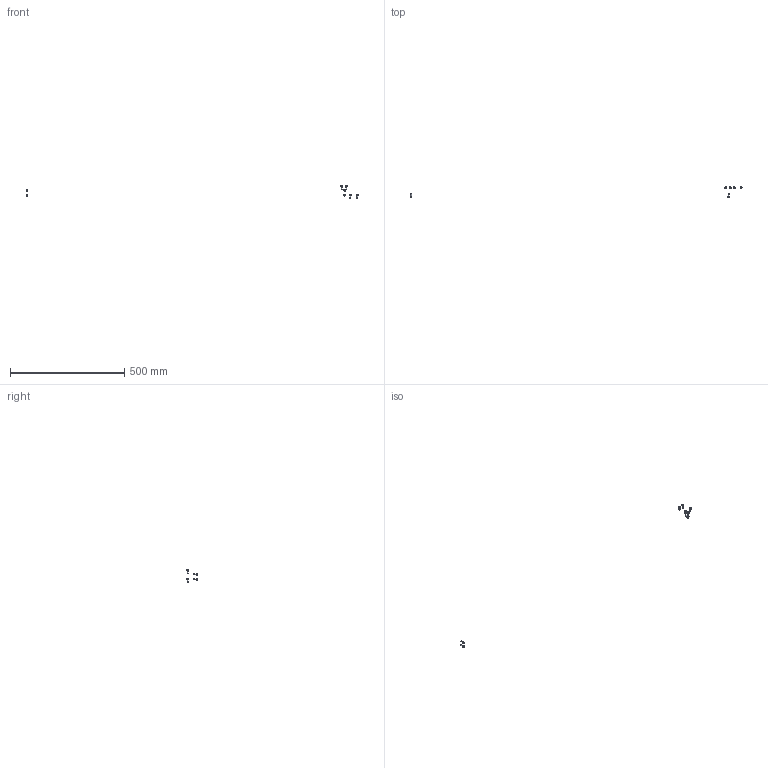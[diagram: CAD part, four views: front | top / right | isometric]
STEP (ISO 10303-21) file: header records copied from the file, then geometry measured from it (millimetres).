
FILE_DESCRIPTION(/* description */ (''),/* implementation_level */ '2;1');
FILE_NAME(/* name */ 'X-E0EE~1',/* time_stamp */ '2014-02-14T19:45:37+01:00',/* author */ (''),/* organization */ (''),/* preprocessor_version */ 'ST-DEVELOPER v14',/* originating_system */ '',/* authorisation */ '');
FILE_SCHEMA (('AUTOMOTIVE_DESIGN'));
Length unit declared in the file: millimetre
Products named in the file (2): Document; screw DIN912-like, M5x12
Assembly tree (5 placements, depth 2):
  Document
    screw DIN912-like, M5x12  x5
Bounding box: 1452.46 x 46.25 x 57 mm (x, y, z)
Volume: 3829.8 mm3; surface area: 3662.1 mm2
Topology: 8 solids, 8 shells, 200 faces, 448 edges, 264 vertices
Faces by surface type: plane 120, bspline 80
Entity records: 5505 total; most frequent: CARTESIAN_POINT 2520, B_SPLINE_CURVE_WITH_KNOTS 504, ORIENTED_EDGE 432, PCURVE 432, DEFINITIONAL_REPRESENTATION 432, SURFACE_CURVE 216, EDGE_CURVE 216, VERTEX_POINT 132
